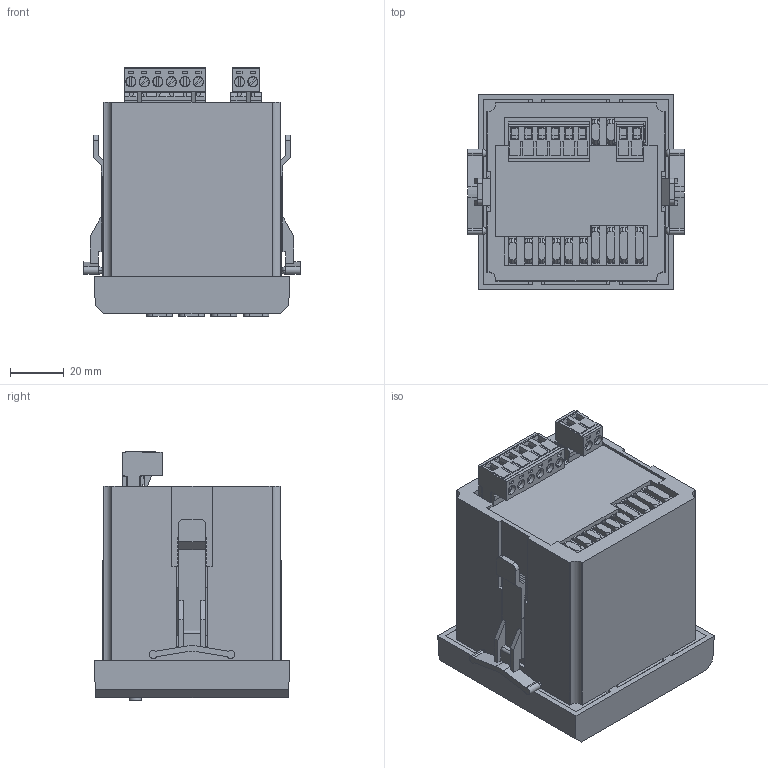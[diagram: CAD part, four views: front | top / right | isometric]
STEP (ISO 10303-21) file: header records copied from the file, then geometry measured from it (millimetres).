
FILE_DESCRIPTION (( 'STEP AP203' ), '1' );
FILE_NAME ('AMD-773 ASTER.STEP', '2019-12-02T21:27:38', ( '' ), ( '' ), 'SwSTEP 2.0', 'SolidWorks 2017', '' );
FILE_SCHEMA (( 'CONFIG_CONTROL_DESIGN' ));
Length unit declared in the file: millimetre
Products named in the file (1): AMD-773 ASTER
Bounding box: 80.82 x 73 x 92.9 mm (x, y, z)
Volume: 102867.9 mm3; surface area: 83501.6 mm2
Topology: 2 solids, 2 shells, 1399 faces, 3887 edges, 2501 vertices
Faces by surface type: plane 1085, cylinder 290, cone 16, bspline 8
Entity records: 44308 total; most frequent: CARTESIAN_POINT 8248, ORIENTED_EDGE 7742, DIRECTION 7127, EDGE_CURVE 3871, VECTOR 3175, LINE 3175, VERTEX_POINT 2501, AXIS2_PLACEMENT_3D 1976
